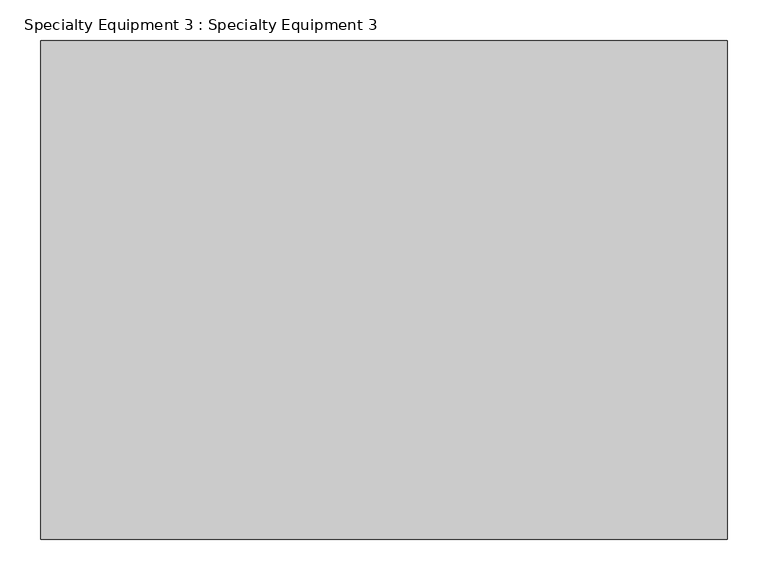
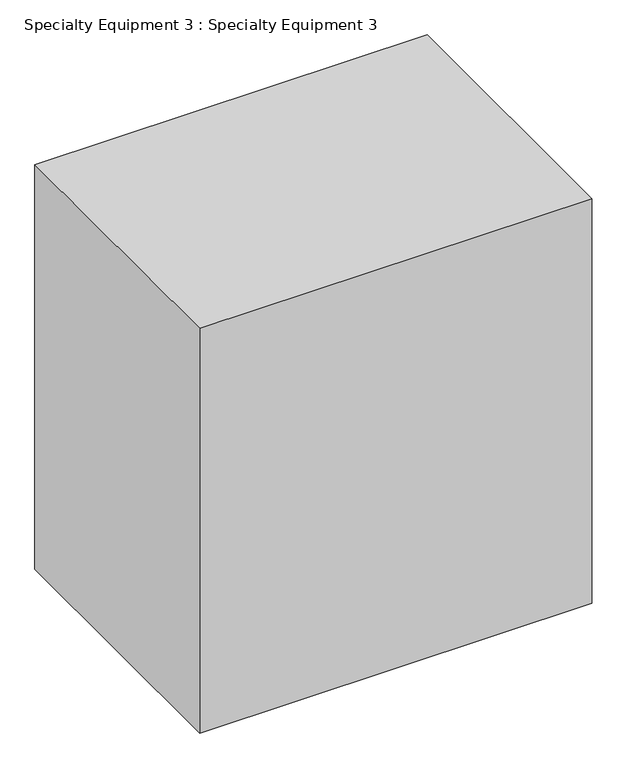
"""IFC4 building model written with IfcOpenShell, lengths in millimetres: proxy geometry, Specialty Equipment 3 : Specialty Equipment 3."""

from ifc_helpers import new_model, si_unit, frame, origin, place, context, project, spatial, polyline, outline, extrude, source, transform, mapped, element, save


def specialty_equipment_3_specialty_equipment_3_975726c7(model_context):
    return source(origin(), model_context, "Body", "SweptSolid", [
        extrude(outline(polyline([(761.8972395, 10001.25), (1600.0972395, 10001.25), (1600.0972395, 9391.65), (761.8972395, 9391.65), (761.8972395, 10001.25)])), frame((0.0, 0.0, 4262.4), z_axis=(0.0, 0.0, 1.0), x_axis=(1.0, 0.0, 0.0)), (0.0, 0.0, 1.0), 914.4),
    ])


if __name__ == "__main__":
    model = new_model("IFC4")
    model_context = context("Model", 3, world=origin())
    ifc_project = project(units=[si_unit("LENGTHUNIT", "METRE", prefix="MILLI")], contexts=[model_context])
    site = spatial("IfcSite", under=ifc_project)
    building = spatial("IfcBuilding", under=site)
    placement = place(None, origin())
    specialty_equipment_3_specialty_equipment_3_shape = specialty_equipment_3_specialty_equipment_3_975726c7(model_context)
    element("IfcBuildingElementProxy", 1, Name="Specialty Equipment 3 : Specialty Equipment 3", ObjectType="Specialty Equipment 3 : Specialty Equipment 3", at=placement, inside=building, context=model_context, shape_type="MappedRepresentation", body=[
        mapped(specialty_equipment_3_specialty_equipment_3_shape, transform((0.0, 0.0, 0.0), x_axis=(1.0, 0.0, 0.0), y_axis=(0.0, 1.0, 0.0), z_axis=(0.0, 0.0, 1.0))),
    ])
    save(model, "model.ifc")
